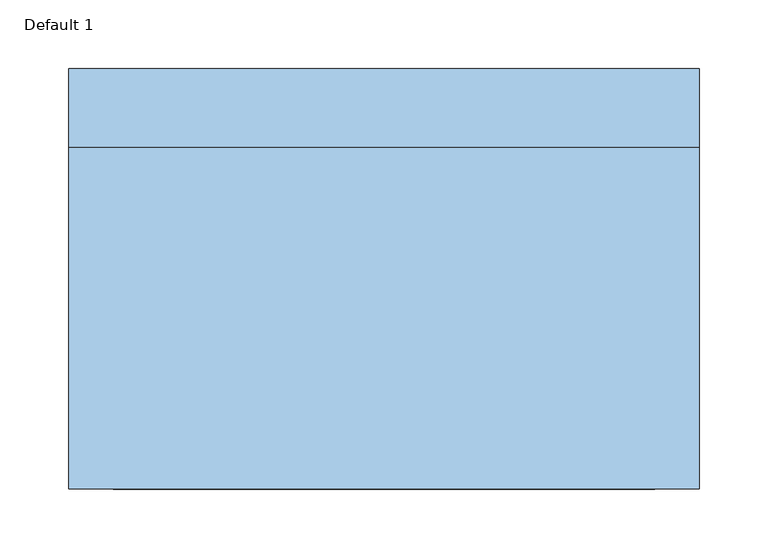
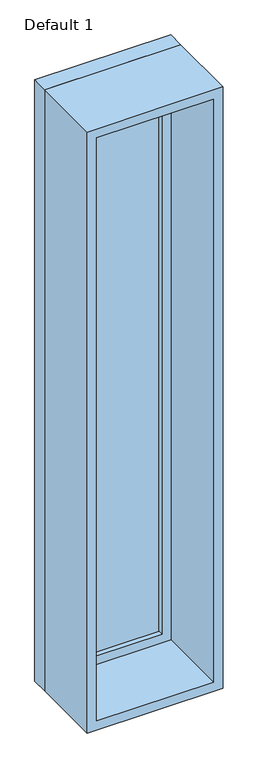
"""IFC4 building model written with IfcOpenShell, lengths in millimetres: window geometry, Planitar-Fixed : Default 1."""

import ifcopenshell
import ifcopenshell.guid

model = None  # the IFC model being written
_history = None  # IfcOwnerHistory: only IFC2X3 demands one
_inside = {}  # id of a spatial element -> (the spatial element, [elements in it])
_under = {}  # id of a project, library or spatial element -> (it, [spatial elements below it])
_declared = {}  # id of a project -> (the project, [libraries it declares])
_typed = {}  # id of a type object -> (the type object, [elements of that type])
_made_of = {}  # id of a material, layer set ... -> (it, [elements and type objects made of it])


def new_model(schema):
    """Start an empty IFC model of exactly this schema.

    Asked for "IFC4X3", IfcOpenShell would pick the latest addendum, in which some entities
    have other attributes; the version numbers below select the first issue.
    IFC2X3 requires an IfcOwnerHistory on every rooted entity: one is made here for all.
    """
    global model, _history
    if schema == "IFC4X3":
        model = ifcopenshell.file(schema_version=(4, 3, 0, 0))
    else:
        model = ifcopenshell.file(schema=schema)
    _inside.clear()
    _under.clear()
    _declared.clear()
    _typed.clear()
    _made_of.clear()
    _history = None
    if model.schema == "IFC2X3":
        org = make("IfcOrganization", Name="unknown")
        user = make(
            "IfcPersonAndOrganization",
            ThePerson=make("IfcPerson", FamilyName="unknown"),
            TheOrganization=org,
        )
        app = make(
            "IfcApplication",
            ApplicationDeveloper=org,
            Version="unknown",
            ApplicationFullName="unknown",
            ApplicationIdentifier="unknown",
        )
        _history = make(
            "IfcOwnerHistory",
            OwningUser=user,
            OwningApplication=app,
            ChangeAction="ADDED",
            CreationDate=0,
        )
    return model


def make(cls, **values):
    """One entity of the class cls with the attributes given. An attribute that is None is left unset."""
    return model.create_entity(
        cls, **{name: value for name, value in values.items() if value is not None}
    )


def rooted(cls, **values):
    """An entity with a GlobalId (a new one), such as an element, a storey or a relation."""
    return make(cls, GlobalId=ifcopenshell.guid.new(), OwnerHistory=_history, **values)


def si_unit(unit_type, name, prefix=None):
    """IfcSIUnit, for example si_unit("LENGTHUNIT", "METRE", prefix="MILLI")."""
    return make("IfcSIUnit", UnitType=unit_type, Prefix=prefix, Name=name)


def assignment(units):
    """IfcUnitAssignment: the units of a project."""
    return None if units is None else make("IfcUnitAssignment", Units=units)


def point(xyz):
    """IfcCartesianPoint."""
    return None if xyz is None else make("IfcCartesianPoint", Coordinates=xyz)


def direction(xyz):
    """IfcDirection."""
    return None if xyz is None else make("IfcDirection", DirectionRatios=xyz)


def frame(location, z_axis=None, x_axis=None):
    """IfcAxis2Placement3D, a coordinate frame: its origin and axes. An axis left out is left unset."""
    return make(
        "IfcAxis2Placement3D",
        Location=point(location),
        Axis=direction(z_axis),
        RefDirection=direction(x_axis),
    )


def origin():
    """The frame at (0, 0, 0) with its axes left unset."""
    return frame((0.0, 0.0, 0.0))


def place(relative_to, where):
    """IfcLocalPlacement: puts the frame where relative to a parent placement (None: the world)."""
    return make(
        "IfcLocalPlacement", PlacementRelTo=relative_to, RelativePlacement=where
    )


def context(
    kind, dimensions, precision=None, world=None, true_north=None, identifier=None
):
    """IfcGeometricRepresentationContext, for example the 3D "Model" context."""
    return make(
        "IfcGeometricRepresentationContext",
        ContextIdentifier=identifier,
        ContextType=kind,
        CoordinateSpaceDimension=dimensions,
        Precision=precision,
        WorldCoordinateSystem=world,
        TrueNorth=true_north,
    )


def project(units=None, contexts=None):
    """IfcProject with its units and contexts."""
    return rooted(
        "IfcProject",
        Name="project",
        RepresentationContexts=contexts,
        UnitsInContext=assignment(units),
    )


def spatial(cls, under=None, at=None, **own):
    """A site, building, storey or space (cls), placed at a placement, below another one or the project."""
    s = rooted(cls, ObjectPlacement=at, **own)
    if under is not None:
        _under.setdefault(under.id(), (under, []))[1].append(s)
    return s


def polyline(points):
    """IfcPolyline through the points."""
    return make("IfcPolyline", Points=[point(p) for p in points])


def outline(outer, holes=None, kind="AREA"):
    """IfcArbitraryClosedProfileDef: a profile drawn as a closed curve; with holes, ...WithVoids."""
    if holes is None:
        return make("IfcArbitraryClosedProfileDef", ProfileType=kind, OuterCurve=outer)
    return make(
        "IfcArbitraryProfileDefWithVoids",
        ProfileType=kind,
        OuterCurve=outer,
        InnerCurves=holes,
    )


def extrude(swept, where, along, depth):
    """IfcExtrudedAreaSolid: the profile swept, set in the frame where, extruded along a direction by depth."""
    return make(
        "IfcExtrudedAreaSolid",
        SweptArea=swept,
        Position=where,
        ExtrudedDirection=direction(along),
        Depth=depth,
    )


def shape(context_of_items, identifier, shape_type, items):
    """IfcShapeRepresentation: the items that make up one representation, for example the "Body"."""
    return make(
        "IfcShapeRepresentation",
        ContextOfItems=context_of_items,
        RepresentationIdentifier=identifier,
        RepresentationType=shape_type,
        Items=items,
    )


def source(mapping_origin, context_of_items, identifier, shape_type, items):
    """IfcRepresentationMap: a shape defined once, which mapped items show again and again."""
    return make(
        "IfcRepresentationMap",
        MappingOrigin=mapping_origin,
        MappedRepresentation=shape(context_of_items, identifier, shape_type, items),
    )


def transform(
    local_origin,
    x_axis=None,
    y_axis=None,
    z_axis=None,
    scale=None,
    scale2=None,
    scale3=None,
    uniform=True,
):
    """IfcCartesianTransformationOperator3D, or its non-uniform kind. x_axis, y_axis, z_axis: its Axis1, 2, 3."""
    if uniform:
        return make(
            "IfcCartesianTransformationOperator3D",
            Axis1=direction(x_axis),
            Axis2=direction(y_axis),
            LocalOrigin=point(local_origin),
            Scale=scale,
            Axis3=direction(z_axis),
        )
    return make(
        "IfcCartesianTransformationOperator3DnonUniform",
        Axis1=direction(x_axis),
        Axis2=direction(y_axis),
        LocalOrigin=point(local_origin),
        Scale=scale,
        Axis3=direction(z_axis),
        Scale2=scale2,
        Scale3=scale3,
    )


def mapped(mapping_source, mapping_target):
    """IfcMappedItem: shows the shape of a source again, moved by a transform."""
    return make(
        "IfcMappedItem", MappingSource=mapping_source, MappingTarget=mapping_target
    )


def made_of(thing, what):
    """Note that an element or type object is made of a material, layer set ...; save() writes the relation."""
    if what is not None:
        _made_of.setdefault(what.id(), (what, []))[1].append(thing)
    return thing


def element(
    cls,
    number,
    at=None,
    inside=None,
    cuts=None,
    type_object=None,
    material=None,
    context=None,
    identifier="Body",
    shape_type=None,
    held_by="IfcProductDefinitionShape",
    body=None,
    shapes=None,
    **own,
):
    """One element of the class cls, such as IfcWall. Its Tag is "e" and its number.

    at: its placement. inside: the storey or other place that contains it. cuts: it is an
    opening in that element (IfcRelVoidsElement). A single representation is given by context,
    identifier, shape_type and body (its items); several are given by shapes. held_by: the class
    of the entity that holds the representations. save() writes the other relations.
    """
    e = rooted(cls, Tag="e%d" % number, ObjectPlacement=at, **own)
    if body is not None:
        shapes = [shape(context, identifier, shape_type, body)]
    if shapes is not None:
        e.Representation = make(held_by, Representations=shapes)
    if inside is not None:
        _inside.setdefault(inside.id(), (inside, []))[1].append(e)
    if cuts is not None:
        rooted(
            "IfcRelVoidsElement", RelatingBuildingElement=cuts, RelatedOpeningElement=e
        )
    if type_object is not None:
        _typed.setdefault(type_object.id(), (type_object, []))[1].append(e)
    return made_of(e, material)


def aggregate(whole, parts):
    """IfcRelAggregates: a whole, such as a stair, and the parts it consists of."""
    return rooted("IfcRelAggregates", RelatingObject=whole, RelatedObjects=parts)


def save(model, path):
    """Write the relations noted so far, then the file.

    IfcRelAggregates (storeys below a building ...), IfcRelContainedInSpatialStructure (elements
    in a storey), IfcRelDefinesByType, IfcRelAssociatesMaterial and IfcRelDeclares: one each for
    every whole, place, type object, material and project.
    """
    for whole, parts in _under.values():
        aggregate(whole, parts)
    for where, things in _inside.values():
        rooted(
            "IfcRelContainedInSpatialStructure",
            RelatedElements=things,
            RelatingStructure=where,
        )
    for kind, things in _typed.values():
        rooted("IfcRelDefinesByType", RelatedObjects=things, RelatingType=kind)
    for what, things in _made_of.values():
        rooted("IfcRelAssociatesMaterial", RelatedObjects=things, RelatingMaterial=what)
    for by, libraries in _declared.values():
        rooted("IfcRelDeclares", RelatingContext=by, RelatedDefinitions=libraries)
    model.write(path)


def default_1_ecde31a0(model_context):
    return source(origin(), model_context, "Body", "SweptSolid", [
        extrude(outline(polyline([(3029.0, -209.6), (933.4, -209.6), (933.4, 209.6), (3029.0, 209.6), (3029.0, -209.6)]), holes=[polyline([(2985.0, -165.6), (2985.0, 165.6), (977.4, 165.6), (977.4, -165.6), (2985.0, -165.6)])]), frame((0.0, 108.7, 0.0), z_axis=(0.0, 1.0, 0.0), x_axis=(0.0, 0.0, 1.0)), (0.0, 0.0, 1.0), 44.0),
        extrude(outline(polyline([(3048.0, -228.6), (914.4, -228.6), (914.4, 228.6), (3048.0, 228.6), (3048.0, -228.6)]), holes=[polyline([(3029.0, -209.6), (3029.0, 209.6), (933.4, 209.6), (933.4, -209.6), (3029.0, -209.6)])]), frame((0.0, 108.7, 0.0), z_axis=(0.0, 1.0, 0.0), x_axis=(0.0, 0.0, 1.0)), (0.0, 0.0, 1.0), 56.7),
        extrude(outline(polyline([(3048.0, -228.6), (914.4, -228.6), (914.4, 228.6), (3048.0, 228.6), (3048.0, -228.6)]), holes=[polyline([(3016.0, -196.6), (3016.0, 196.6), (946.4, 196.6), (946.4, -196.6), (3016.0, -196.6)])]), frame((0.0, -139.4, 0.0), z_axis=(0.0, 1.0, 0.0), x_axis=(0.0, 0.0, 1.0)), (0.0, 0.0, 1.0), 248.1),
        extrude(outline(polyline([(-165.6, 136.7), (165.6, 136.7), (165.6, 124.7), (-165.6, 124.7), (-165.6, 136.7)])), frame((0.0, 0.0, 977.4), z_axis=(0.0, 0.0, 1.0), x_axis=(1.0, 0.0, 0.0)), (0.0, 0.0, 1.0), 2007.6),
    ])


if __name__ == "__main__":
    model = new_model("IFC4")
    model_context = context("Model", 3, world=origin())
    ifc_project = project(units=[si_unit("LENGTHUNIT", "METRE", prefix="MILLI")], contexts=[model_context])
    site = spatial("IfcSite", under=ifc_project)
    building = spatial("IfcBuilding", under=site)
    placement = place(None, origin())
    default_1_shape = default_1_ecde31a0(model_context)
    element("IfcWindow", 1, ObjectType="Planitar-Fixed : Default 1", at=placement, inside=building, context=model_context, shape_type="MappedRepresentation", body=[
        mapped(default_1_shape, transform((0.0, 0.0, 0.0), x_axis=(1.0, 0.0, 0.0), y_axis=(0.0, 1.0, 0.0), z_axis=(0.0, 0.0, 1.0))),
    ])
    save(model, "model.ifc")
